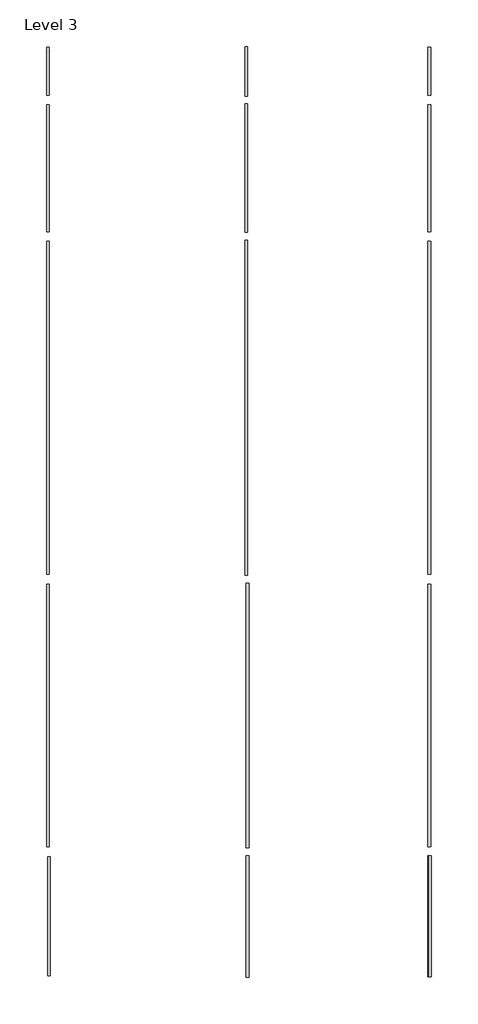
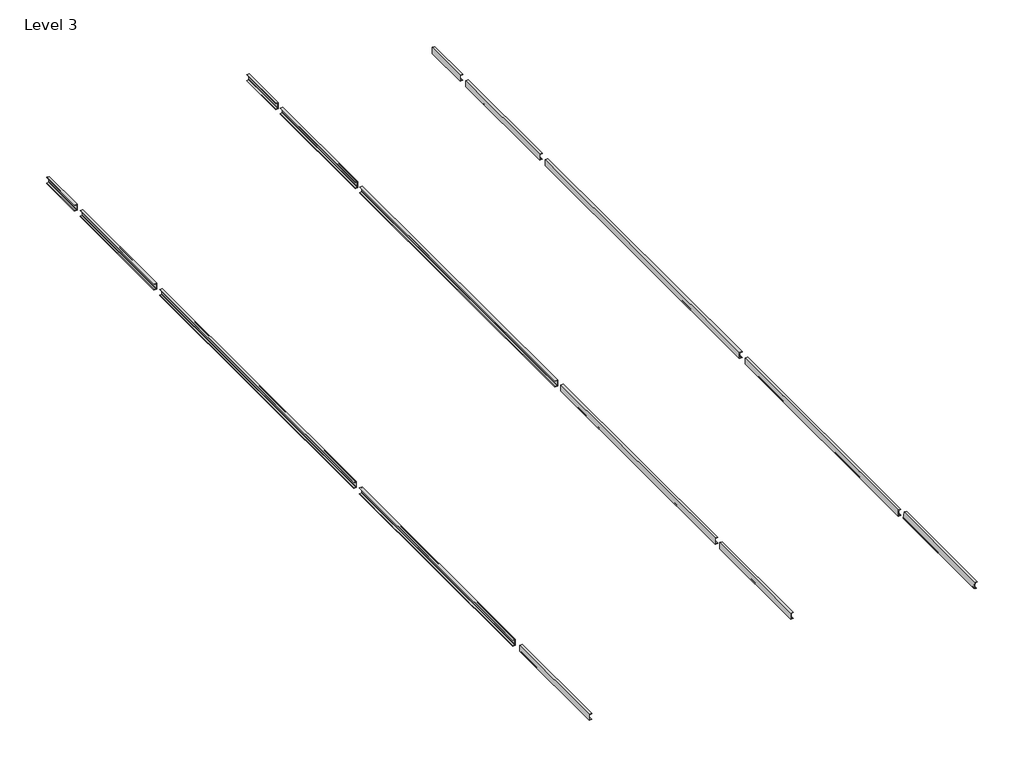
# One storey: 15 beams.
"""IFC4 building model written with IfcOpenShell, lengths in millimetres."""

from ifc_helpers import new_model, si_unit, origin, place, context, project, spatial, transform, mapped, element, save
from components import c_shapes_c4x6_25_1e92d3b5, c_shapes_c4x6_25_d7d597ab, c_shapes_c4x6_25_a23b8495, c_shapes_c4x6_25_9efe58e5, c_shapes_c4x6_25_8f4e97ee, c_shapes_c4x6_25_93041276, c_shapes_c4x6_25_97051f67, c_shapes_c4x6_25_463d63b2, c_shapes_c4x6_25_f7e6f879, c_shapes_c4x6_25_a6c6a5e8, c_shapes_c4x6_25_b39816fb, c_shapes_c4x6_25_7dd4afaa

model = new_model("IFC4")

# Units and contexts
model_context = context("Model", 3, world=origin())
ifc_project = project(units=[si_unit("LENGTHUNIT", "METRE", prefix="MILLI")], contexts=[model_context])

# Site, building, storey
site = spatial("IfcSite", under=ifc_project)
building = spatial("IfcBuilding", under=site)
storey = spatial("IfcBuildingStorey", under=building, Name="Level 3", Elevation=6096.0)

# Beams
placement = place(None, origin())
c_shapes_c4x6_25_shape = c_shapes_c4x6_25_1e92d3b5(model_context)
element("IfcBeam", 1, ObjectType="C Shapes : C4X6.25", at=placement, inside=storey, context=model_context, shape_type="MappedRepresentation", body=[
    mapped(c_shapes_c4x6_25_shape, transform((-156.8401664, 5882.6298868, 5825.1336143), x_axis=(0.0, 1.0, 0.0), y_axis=(-1.0, 0.0, 0.0), z_axis=(0.0, 0.0, 1.0))),
])
element("IfcBeam", 2, ObjectType="C Shapes : C4X6.25", at=placement, inside=storey, context=model_context, shape_type="MappedRepresentation", body=[
    mapped(c_shapes_c4x6_25_shape, transform((-6214.7401664, 5882.6298868, 5786.3114063), x_axis=(0.0, -1.0, 0.0), y_axis=(1.0, 0.0, 0.0), z_axis=(0.0, 0.0, 1.0))),
])
c_shapes_c4x6_25_2_shape = c_shapes_c4x6_25_d7d597ab(model_context)
element("IfcBeam", 3, ObjectType="C Shapes : C4X6.25", at=placement, inside=storey, context=model_context, shape_type="MappedRepresentation", body=[
    mapped(c_shapes_c4x6_25_2_shape, transform((-156.8401664, 10778.9334581, 5825.1336143), x_axis=(0.0, 1.0, 0.0), y_axis=(-1.0, 0.0, 0.0), z_axis=(0.0, 0.0, 1.0))),
])
element("IfcBeam", 4, ObjectType="C Shapes : C4X6.25", at=placement, inside=storey, context=model_context, shape_type="MappedRepresentation", body=[
    mapped(c_shapes_c4x6_25_2_shape, transform((-6214.7401664, 10778.9334581, 5786.3114063), x_axis=(0.0, -1.0, 0.0), y_axis=(1.0, 0.0, 0.0), z_axis=(0.0, 0.0, 1.0))),
])
c_shapes_c4x6_25_3_shape = c_shapes_c4x6_25_a23b8495(model_context)
element("IfcBeam", 5, ObjectType="C Shapes : C4X6.25", at=placement, inside=storey, context=model_context, shape_type="MappedRepresentation", body=[
    mapped(c_shapes_c4x6_25_3_shape, transform((-156.8401664, 14592.3352438, 5825.1336143), x_axis=(0.0, 1.0, 0.0), y_axis=(-1.0, 0.0, 0.0), z_axis=(0.0, 0.0, 1.0))),
])
element("IfcBeam", 6, ObjectType="C Shapes : C4X6.25", at=placement, inside=storey, context=model_context, shape_type="MappedRepresentation", body=[
    mapped(c_shapes_c4x6_25_3_shape, transform((-6214.7401664, 14592.3352438, 5786.3114063), x_axis=(0.0, -1.0, 0.0), y_axis=(1.0, 0.0, 0.0), z_axis=(0.0, 0.0, 1.0))),
])
c_shapes_c4x6_25_4_shape = c_shapes_c4x6_25_9efe58e5(model_context)
element("IfcBeam", 7, ObjectType="C Shapes : C4X6.25", at=placement, inside=storey, context=model_context, shape_type="MappedRepresentation", body=[
    mapped(c_shapes_c4x6_25_4_shape, transform((-156.8401664, 16160.1048866, 5825.1336143), x_axis=(0.0, 1.0, 0.0), y_axis=(-1.0, 0.0, 0.0), z_axis=(0.0, 0.0, 1.0))),
])
c_shapes_c4x6_25_5_shape = c_shapes_c4x6_25_8f4e97ee(model_context)
element("IfcBeam", 8, ObjectType="C Shapes : C4X6.25", at=placement, inside=storey, context=model_context, shape_type="MappedRepresentation", body=[
    mapped(c_shapes_c4x6_25_5_shape, transform((-6214.7401664, 16160.1048866, 5786.3114063), x_axis=(0.0, -1.0, 0.0), y_axis=(1.0, 0.0, 0.0), z_axis=(0.0, 0.0, 1.0))),
])
c_shapes_c4x6_25_6_shape = c_shapes_c4x6_25_93041276(model_context)
element("IfcBeam", 9, ObjectType="C Shapes : C4X6.25", at=placement, inside=storey, context=model_context, shape_type="MappedRepresentation", body=[
    mapped(c_shapes_c4x6_25_6_shape, transform((-6214.7401664, 2689.0334583, 5786.3114063), x_axis=(0.0, -1.0, 0.0), y_axis=(1.0, 0.0, 0.0), z_axis=(0.0, 0.0, 1.0))),
])
c_shapes_c4x6_25_7_shape = c_shapes_c4x6_25_97051f67(model_context)
element("IfcBeam", 10, ObjectType="C Shapes : C4X6.25", at=placement, inside=storey, context=model_context, shape_type="MappedRepresentation", body=[
    mapped(c_shapes_c4x6_25_7_shape, transform((-3052.4401664, 5882.6298868, 6381.6839899), x_axis=(0.0, 1.0, 0.0), y_axis=(-1.0, 0.0, 0.0), z_axis=(0.0, 0.0, 1.0))),
])
c_shapes_c4x6_25_8_shape = c_shapes_c4x6_25_463d63b2(model_context)
element("IfcBeam", 11, ObjectType="C Shapes : C4X6.25", at=placement, inside=storey, context=model_context, shape_type="MappedRepresentation", body=[
    mapped(c_shapes_c4x6_25_8_shape, transform((-3052.4401664, 10778.9334581, 6381.6839899), x_axis=(0.0, -1.0, 0.0), y_axis=(1.0, 0.0, 0.0), z_axis=(0.0, 0.0, 1.0))),
])
c_shapes_c4x6_25_9_shape = c_shapes_c4x6_25_f7e6f879(model_context)
element("IfcBeam", 12, ObjectType="C Shapes : C4X6.25", at=placement, inside=storey, context=model_context, shape_type="MappedRepresentation", body=[
    mapped(c_shapes_c4x6_25_9_shape, transform((-3052.4401664, 14592.3352438, 6381.6839899), x_axis=(0.0, -1.0, 0.0), y_axis=(1.0, 0.0, 0.0), z_axis=(0.0, 0.0, 1.0))),
])
c_shapes_c4x6_25_10_shape = c_shapes_c4x6_25_a6c6a5e8(model_context)
element("IfcBeam", 13, ObjectType="C Shapes : C4X6.25", at=placement, inside=storey, context=model_context, shape_type="MappedRepresentation", body=[
    mapped(c_shapes_c4x6_25_10_shape, transform((-3052.4401664, 16134.7048866, 6381.6839899), x_axis=(0.0, -1.0, 0.0), y_axis=(1.0, 0.0, 0.0), z_axis=(0.0, 0.0, 1.0))),
])
c_shapes_c4x6_25_11_shape = c_shapes_c4x6_25_b39816fb(model_context)
element("IfcBeam", 14, ObjectType="C Shapes : C4X6.25", at=placement, inside=storey, context=model_context, shape_type="MappedRepresentation", body=[
    mapped(c_shapes_c4x6_25_11_shape, transform((-150.9850532, 2688.9868844, 5869.9081058), x_axis=(0.0, 0.9999995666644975, 0.0009309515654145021), y_axis=(-0.9848077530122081, -0.00016165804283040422, 0.17364810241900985), z_axis=(0.17364817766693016, -0.0009168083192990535, 0.9848073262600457))),
])
c_shapes_c4x6_25_12_shape = c_shapes_c4x6_25_7dd4afaa(model_context)
element("IfcBeam", 15, ObjectType="C Shapes : C4X6.25", at=placement, inside=storey, context=model_context, shape_type="MappedRepresentation", body=[
    mapped(c_shapes_c4x6_25_12_shape, transform((-3052.4401664, 2711.2584583, 6381.6839899), x_axis=(0.0, 1.0, 0.0), y_axis=(-1.0, 0.0, 0.0), z_axis=(0.0, 0.0, 1.0))),
])

save(model, "model.ifc")
